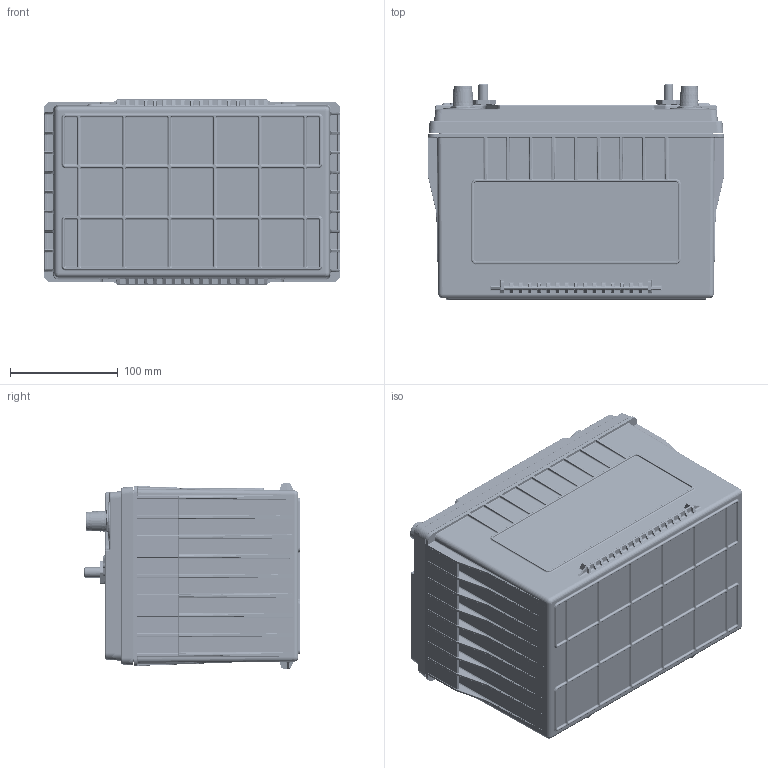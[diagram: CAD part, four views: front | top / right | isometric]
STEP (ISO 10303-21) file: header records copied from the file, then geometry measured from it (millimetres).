
FILE_DESCRIPTION (( 'STEP AP203' ), '1' );
FILE_NAME ('ODX-AGM34M_0785-2050.STEP', '2024-01-04T18:40:26', ( '' ), ( '' ), 'SwSTEP 2.0', 'SolidWorks 2022', '' );
FILE_SCHEMA (( 'CONFIG_CONTROL_DESIGN' ));
Length unit declared in the file: inch
Products named in the file (1): ODX-AGM34M_0785-2050
Bounding box: 275.53 x 200.36 x 171.81 mm (x, y, z)
Volume: 1312119 mm3; surface area: 1041581.1 mm2
Topology: 22 solids, 22 shells, 7778 faces, 19299 edges, 11319 vertices
Faces by surface type: cylinder 3138, plane 2434, bspline 1132, torus 451, sphere 385, cone 238
Full cylindrical faces by diameter (mm): 3.175 x32, 3.81 x1, 6.35 x2, 7.62 x1, 7.938 x3, 8.001 x6, 9.525 x3, 10.8 x2, 12 x36, 14.288 x2, 17.463 x2, 18.798 x2, 20.218 x2, 24.282 x4, 31.344 x2, 31.648 x4, 35.941 x2
Entity records: 254036 total; most frequent: CARTESIAN_POINT 87873, ORIENTED_EDGE 37102, DIRECTION 32361, EDGE_CURVE 18551, AXIS2_PLACEMENT_3D 11577, VERTEX_POINT 11146, LINE 9207, VECTOR 9207
